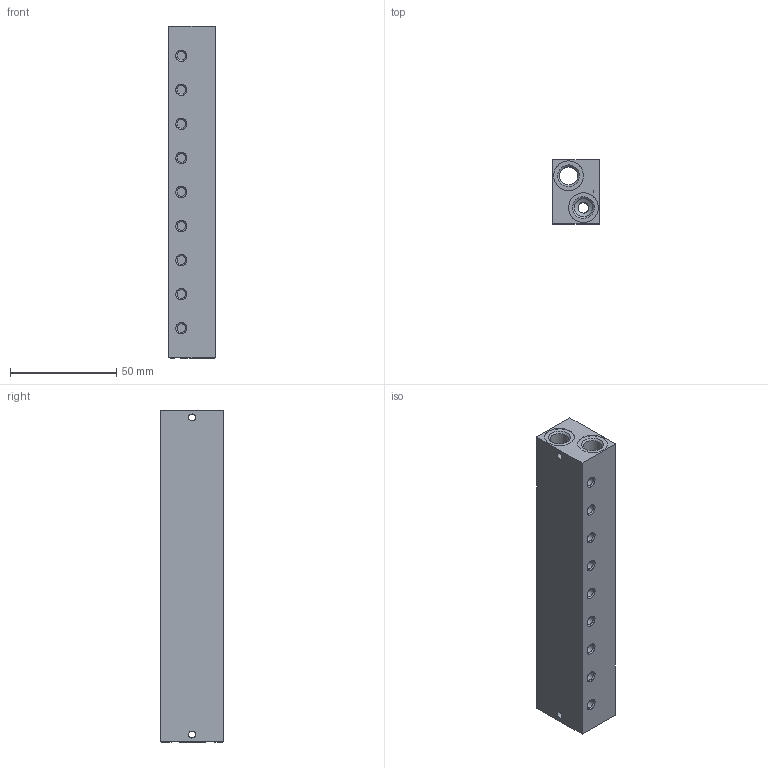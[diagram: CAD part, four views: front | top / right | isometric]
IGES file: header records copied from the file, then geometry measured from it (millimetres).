
Global section: file name: 355_09; native system: Autodesk Inventor 2014; preprocessor: unknown; author: R.Rivoltella; organization: Pneumax S.p.A.; date: 20161003.105305; units: millimetre
Bounding box: 22 x 30 x 156 mm (x, y, z)
Volume: 88176.6 mm3; surface area: 26175.3 mm2
Topology: 1 solids, 1 shells, 111 faces, 332 edges, 238 vertices
Faces by surface type: bspline 111
